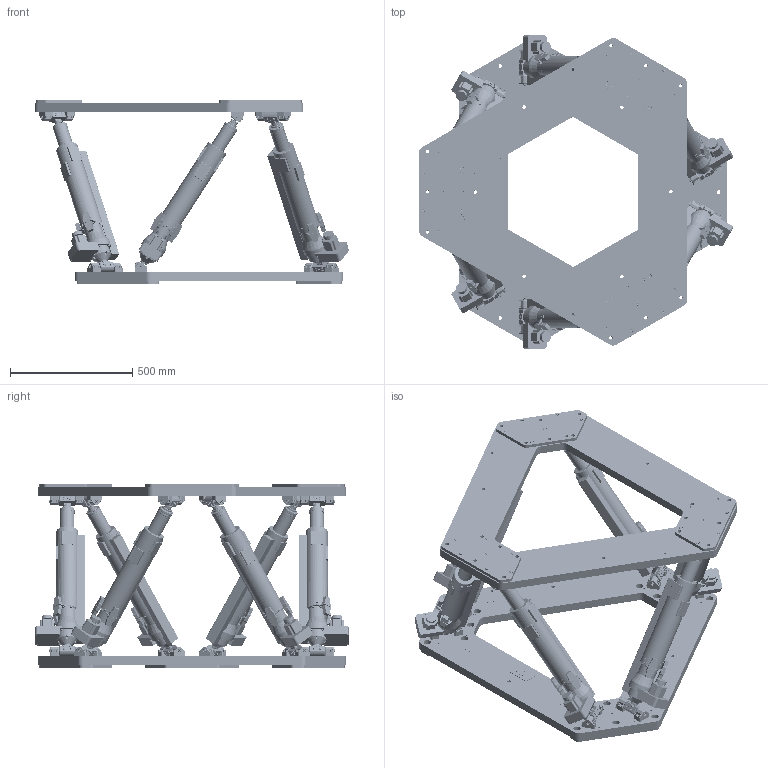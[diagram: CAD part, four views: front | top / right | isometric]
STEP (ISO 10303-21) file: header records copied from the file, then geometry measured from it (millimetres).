
FILE_DESCRIPTION (( 'STEP AP203' ), '1' );
FILE_NAME ('STD01_0000-2_JORAN UJ Hexapod_C0.STEP', '2023-02-06T12:38:03', ( '' ), ( '' ), 'SwSTEP 2.0', 'SolidWorks 2021', '' );
FILE_SCHEMA (( 'CONFIG_CONTROL_DESIGN' ));
Length unit declared in the file: millimetre
Products named in the file (42): ISO 4762 M8 x 20 - 20N-Inox-A2_ISO 4762 M8 x 20 - 20N-Inox-A2; STD01_0321_Articulation Plateau; STD01_0100_Plateaux_PF GA; STD01_0200_Actionneur_GA Light; STD01_0351_Noix Tige Actionneur; STD01_0341_Noix Articulation_Export; ISO 7380 - M4 x 8 - 8N-Inox-A2_ISO 7380 - M4 x 8 - 8N-Inox-A2; ISO - 4035 - M5 - N-Inox_ISO - 4035 - M5 - N-Inox; ISO 4029 - M4 x 8-N-Inox_ISO 4029 - M4 x 8-N-Inox; STD01_0321_Articulation Plateau_Light; ISO 4762 M8 x 20 - 20N-Dacro-10.9_ISO 4762 M8 x 20 - 20N-Dacro-10.9; STD01_0210_Corps Actionneur articule_Grand angle 0ø Light; STD01_1100_Plateau Alu_GA-PF; STD01_0211_Corps Actionneur_Light Grd Angle; ISO 4762 M5 x 20 - 20N-Inox-A2_ISO 4762 M5 x 20 - 20N-Inox-A2; STD01_0331_Articulation Corps Actionneur_0ø; STD01_1321_Chape Grand angle_Defaut; C0020_1004_Douille cylindrique d10-D17-L11.5; C0003_1008_Plaque identification 60x100_Interne; STD01_0110_Plateau Fixe_Grand angle; STD01_0160_Plateau Mobile_Grand angle; STD01_0351_Noix Tige Actionneur_Light; STD01_0341_Noix Articulation; STD01_0301_Articulation grand angle_Noix Plateau Light; ISO 4026 - M5 x 8-N-Inox_ISO 4026 - M5 x 8-N-Inox; STD01_0220-2_Tige Actionneur articule Grand angle; STD01_0301_Articulation grand angle_Embase plateau Light; STD01_1100_Plateau Alu_GA-PM; STD01_0100_Plateaux_PM GA; STD01_0301_Articulation grand angle_Noix Tige Light; STD01_1305_Embase Articulation Corps_Regle Invar; STD01_0000-2_JORAN UJ Hexapod_C0; STD01_1104_Platine interface; C0008_2001_Embase pour collier_MTH1-1; STD01_0212_Corps actionneur; ISO 8734 - 2 x 5 - A - St-Inox_ISO 8734 - 2 x 5 - A - St-Inox; STD01_0220_Tige Actionneur articule_Light Grand angle
Assembly tree (140 placements, depth 5):
  STD01_0000-2_JORAN UJ Hexapod_C0
    STD01_0100_Plateaux_PF GA
      STD01_0110_Plateau Fixe_Grand angle
        STD01_1100_Plateau Alu_GA-PF
        STD01_1104_Platine interface  x3
        C0003_1008_Plaque identification 60x100_Interne
        ISO 4762 M8 x 20 - 20N-Inox-A2_ISO 4762 M8 x 20 - 20N-Inox-A2  x24
        C0020_1004_Douille cylindrique d10-D17-L11.5  x2
    STD01_0100_Plateaux_PM GA
      STD01_0160_Plateau Mobile_Grand angle
        STD01_1100_Plateau Alu_GA-PM
        STD01_1104_Platine interface  x3
        ISO 4762 M8 x 20 - 20N-Inox-A2_ISO 4762 M8 x 20 - 20N-Inox-A2  x24
        C0020_1004_Douille cylindrique d10-D17-L11.5  x2
    STD01_0200_Actionneur_GA Light
      STD01_0210_Corps Actionneur articule_Grand angle 0ø Light
        STD01_0331_Articulation Corps Actionneur_0ø
          STD01_1321_Chape Grand angle_Defaut
          STD01_1305_Embase Articulation Corps_Regle Invar
          ISO 4762 M5 x 20 - 20N-Inox-A2_ISO 4762 M5 x 20 - 20N-Inox-A2  x4
          ISO 4029 - M4 x 8-N-Inox_ISO 4029 - M4 x 8-N-Inox  x2
          ISO 4762 M8 x 20 - 20N-Dacro-10.9_ISO 4762 M8 x 20 - 20N-Dacro-10.9
          ISO 8734 - 2 x 5 - A - St-Inox_ISO 8734 - 2 x 5 - A - St-Inox  x2
        STD01_0211_Corps Actionneur_Light Grd Angle
          ISO 7380 - M4 x 8 - 8N-Inox-A2_ISO 7380 - M4 x 8 - 8N-Inox-A2  x2
          STD01_0212_Corps actionneur
          C0008_2001_Embase pour collier_MTH1-1  x2
      STD01_0220_Tige Actionneur articule_Light Grand angle
        STD01_0220-2_Tige Actionneur articule Grand angle
      STD01_0301_Articulation grand angle_Noix Plateau Light  x2
        STD01_0341_Noix Articulation_Export
          STD01_0341_Noix Articulation
          ISO 4026 - M5 x 8-N-Inox_ISO 4026 - M5 x 8-N-Inox
          ISO - 4035 - M5 - N-Inox_ISO - 4035 - M5 - N-Inox
      STD01_0301_Articulation grand angle_Embase plateau Light  x2
        STD01_0321_Articulation Plateau_Light
          STD01_0321_Articulation Plateau
      STD01_0301_Articulation grand angle_Noix Tige Light
        STD01_0351_Noix Tige Actionneur_Light
          STD01_0351_Noix Tige Actionneur
    STD01_0200_Actionneur_GA Light
      STD01_0210_Corps Actionneur articule_Grand angle 0ø Light
        STD01_0331_Articulation Corps Actionneur_0ø
          STD01_1321_Chape Grand angle_Defaut
          STD01_1305_Embase Articulation Corps_Regle Invar
          ISO 4762 M5 x 20 - 20N-Inox-A2_ISO 4762 M5 x 20 - 20N-Inox-A2  x4
          ISO 4029 - M4 x 8-N-Inox_ISO 4029 - M4 x 8-N-Inox  x2
          ISO 4762 M8 x 20 - 20N-Dacro-10.9_ISO 4762 M8 x 20 - 20N-Dacro-10.9
          ISO 8734 - 2 x 5 - A - St-Inox_ISO 8734 - 2 x 5 - A - St-Inox  x2
        STD01_0211_Corps Actionneur_Light Grd Angle
          ISO 7380 - M4 x 8 - 8N-Inox-A2_ISO 7380 - M4 x 8 - 8N-Inox-A2  x2
          STD01_0212_Corps actionneur
          C0008_2001_Embase pour collier_MTH1-1  x2
      STD01_0220_Tige Actionneur articule_Light Grand angle
        STD01_0220-2_Tige Actionneur articule Grand angle
      STD01_0301_Articulation grand angle_Noix Plateau Light  x2
        STD01_0341_Noix Articulation_Export
          STD01_0341_Noix Articulation
          ISO 4026 - M5 x 8-N-Inox_ISO 4026 - M5 x 8-N-Inox
          ISO - 4035 - M5 - N-Inox_ISO - 4035 - M5 - N-Inox
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Bounding box: 1284.14 x 1280.71 x 750 mm (x, y, z)
Volume: 83037889.6 mm3; surface area: 6666438.3 mm2
Topology: 265 solids, 271 shells, 18119 faces, 43973 edges, 27054 vertices
Faces by surface type: plane 9195, cylinder 4256, cone 2434, bspline 1334, torus 684, sphere 216
Entity records: 204171 total; most frequent: CARTESIAN_POINT 83912, ORIENTED_EDGE 24720, DIRECTION 20721, EDGE_CURVE 12360, VERTEX_POINT 8047, LINE 7089, VECTOR 7089, AXIS2_PLACEMENT_3D 6816
